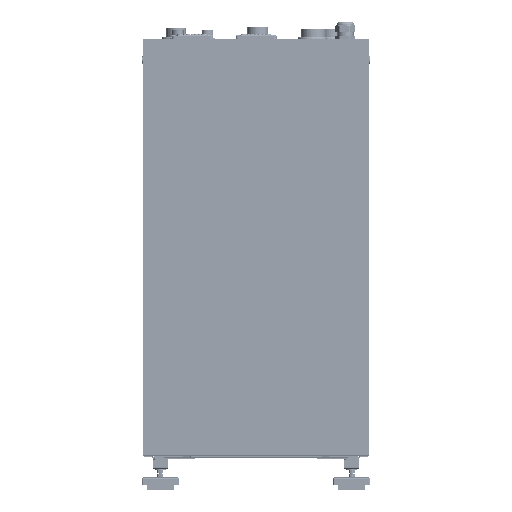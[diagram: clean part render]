
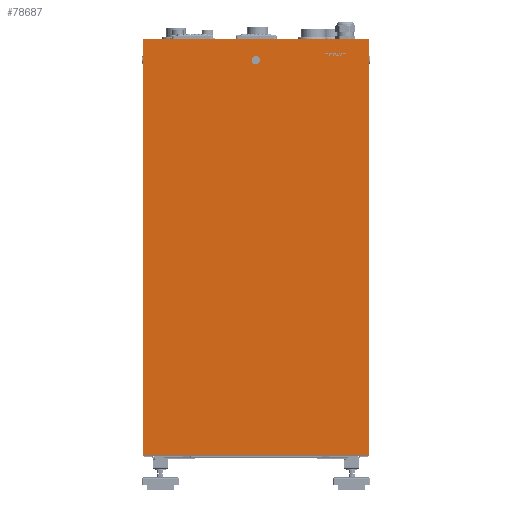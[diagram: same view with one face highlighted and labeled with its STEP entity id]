
A CAD part, front view. The second image highlights one B-rep face of the part: STEP entity #78687.
In plain terms, the highlighted planar face has unit normal (0, -1, 0).
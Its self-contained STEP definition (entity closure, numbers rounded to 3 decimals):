
#2254=FACE_BOUND('',#13585,.T.);
#4217=PLANE('',#85452);
#8095=FACE_OUTER_BOUND('',#13584,.T.);
#13584=EDGE_LOOP('',(#63343,#63344,#63345,#63346));
#13585=EDGE_LOOP('',(#63347,#63348,#63349,#63350,#63351,#63352,#63353,#63354));
#19934=LINE('',#129642,#26595);
#19938=LINE('',#129654,#26599);
#19942=LINE('',#129666,#26603);
#19946=LINE('',#129677,#26607);
#20033=LINE('',#129953,#26694);
#20037=LINE('',#130036,#26698);
#20041=LINE('',#130119,#26702);
#20044=LINE('',#130199,#26705);
#26595=VECTOR('',#102557,10.);
#26599=VECTOR('',#102569,10.);
#26603=VECTOR('',#102581,10.);
#26607=VECTOR('',#102593,10.);
#26694=VECTOR('',#102794,10.);
#26698=VECTOR('',#102804,10.);
#26702=VECTOR('',#102814,10.);
#26705=VECTOR('',#102823,10.);
#30943=CIRCLE('',#85371,11.5);
#30945=CIRCLE('',#85375,11.5);
#30947=CIRCLE('',#85379,11.5);
#30949=CIRCLE('',#85383,11.5);
#36353=VERTEX_POINT('',#129632);
#36354=VERTEX_POINT('',#129633);
#36357=VERTEX_POINT('',#129641);
#36359=VERTEX_POINT('',#129647);
#36361=VERTEX_POINT('',#129653);
#36363=VERTEX_POINT('',#129659);
#36365=VERTEX_POINT('',#129665);
#36367=VERTEX_POINT('',#129671);
#36424=VERTEX_POINT('',#129910);
#36425=VERTEX_POINT('',#129938);
#36428=VERTEX_POINT('',#130003);
#36430=VERTEX_POINT('',#130084);
#45547=EDGE_CURVE('',#36353,#36354,#30943,.T.);
#45551=EDGE_CURVE('',#36357,#36353,#19934,.T.);
#45554=EDGE_CURVE('',#36359,#36357,#30945,.T.);
#45557=EDGE_CURVE('',#36361,#36359,#19938,.T.);
#45560=EDGE_CURVE('',#36363,#36361,#30947,.T.);
#45563=EDGE_CURVE('',#36365,#36363,#19942,.T.);
#45566=EDGE_CURVE('',#36367,#36365,#30949,.T.);
#45569=EDGE_CURVE('',#36354,#36367,#19946,.T.);
#45672=EDGE_CURVE('',#36425,#36424,#20033,.T.);
#45680=EDGE_CURVE('',#36424,#36428,#20037,.T.);
#45688=EDGE_CURVE('',#36428,#36430,#20041,.T.);
#45695=EDGE_CURVE('',#36430,#36425,#20044,.T.);
#63343=ORIENTED_EDGE('',*,*,#45672,.T.);
#63344=ORIENTED_EDGE('',*,*,#45680,.T.);
#63345=ORIENTED_EDGE('',*,*,#45688,.T.);
#63346=ORIENTED_EDGE('',*,*,#45695,.T.);
#63347=ORIENTED_EDGE('',*,*,#45547,.T.);
#63348=ORIENTED_EDGE('',*,*,#45569,.T.);
#63349=ORIENTED_EDGE('',*,*,#45566,.T.);
#63350=ORIENTED_EDGE('',*,*,#45563,.T.);
#63351=ORIENTED_EDGE('',*,*,#45560,.T.);
#63352=ORIENTED_EDGE('',*,*,#45557,.T.);
#63353=ORIENTED_EDGE('',*,*,#45554,.T.);
#63354=ORIENTED_EDGE('',*,*,#45551,.T.);
#78687=ADVANCED_FACE('',(#8095,#2254),#4217,.T.);
#85371=AXIS2_PLACEMENT_3D('',#129634,#102549,#102550);
#85375=AXIS2_PLACEMENT_3D('',#129648,#102562,#102563);
#85379=AXIS2_PLACEMENT_3D('',#129660,#102574,#102575);
#85383=AXIS2_PLACEMENT_3D('',#129672,#102586,#102587);
#85452=AXIS2_PLACEMENT_3D('',#130200,#102824,#102825);
#102549=DIRECTION('center_axis',(0.,1.,0.));
#102550=DIRECTION('ref_axis',(-0.913,0.,-0.408));
#102557=DIRECTION('',(-1.,0.,0.));
#102562=DIRECTION('center_axis',(0.,1.,0.));
#102563=DIRECTION('ref_axis',(0.408,0.,-0.913));
#102569=DIRECTION('',(0.,0.,-1.));
#102574=DIRECTION('center_axis',(0.,1.,0.));
#102575=DIRECTION('ref_axis',(0.913,0.,0.408));
#102581=DIRECTION('',(1.,0.,0.));
#102586=DIRECTION('center_axis',(0.,1.,0.));
#102587=DIRECTION('ref_axis',(-0.408,0.,0.913));
#102593=DIRECTION('',(0.,0.,1.));
#102794=DIRECTION('',(1.,0.,0.));
#102804=DIRECTION('',(0.,0.,1.));
#102814=DIRECTION('',(-1.,0.,0.));
#102823=DIRECTION('',(0.,0.,-1.));
#102824=DIRECTION('center_axis',(0.,-1.,0.));
#102825=DIRECTION('ref_axis',(1.,0.,0.));
#129632=CARTESIAN_POINT('',(-4.69,-573.,1327.5));
#129633=CARTESIAN_POINT('',(-10.5,-573.,1333.31));
#129634=CARTESIAN_POINT('Origin',(0.,-573.,
1338.));
#129641=CARTESIAN_POINT('',(4.69,-573.,1327.5));
#129642=CARTESIAN_POINT('',(2.345,-573.,1327.5));
#129647=CARTESIAN_POINT('',(10.5,-573.,1333.31));
#129648=CARTESIAN_POINT('Origin',(0.,-573.,
1338.));
#129653=CARTESIAN_POINT('',(10.5,-573.,1342.69));
#129654=CARTESIAN_POINT('',(10.5,-573.,1026.345));
#129659=CARTESIAN_POINT('',(4.69,-573.,1348.5));
#129660=CARTESIAN_POINT('Origin',(0.,-573.,
1338.));
#129665=CARTESIAN_POINT('',(-4.69,-573.,1348.5));
#129666=CARTESIAN_POINT('',(-2.345,-573.,1348.5));
#129671=CARTESIAN_POINT('',(-10.5,-573.,1342.69));
#129672=CARTESIAN_POINT('Origin',(0.,-573.,
1338.));
#129677=CARTESIAN_POINT('',(-10.5,-573.,1021.655));
#129910=CARTESIAN_POINT('',(378.,-573.,12.));
#129938=CARTESIAN_POINT('',(-378.,-573.,12.));
#129953=CARTESIAN_POINT('',(189.,-573.,12.));
#130003=CARTESIAN_POINT('',(378.,-573.,1408.));
#130036=CARTESIAN_POINT('',(378.,-573.,1059.));
#130084=CARTESIAN_POINT('',(-378.,-573.,1408.));
#130119=CARTESIAN_POINT('',(-189.,-573.,1408.));
#130199=CARTESIAN_POINT('',(-378.,-573.,361.));
#130200=CARTESIAN_POINT('Origin',(0.,-573.,
710.));
